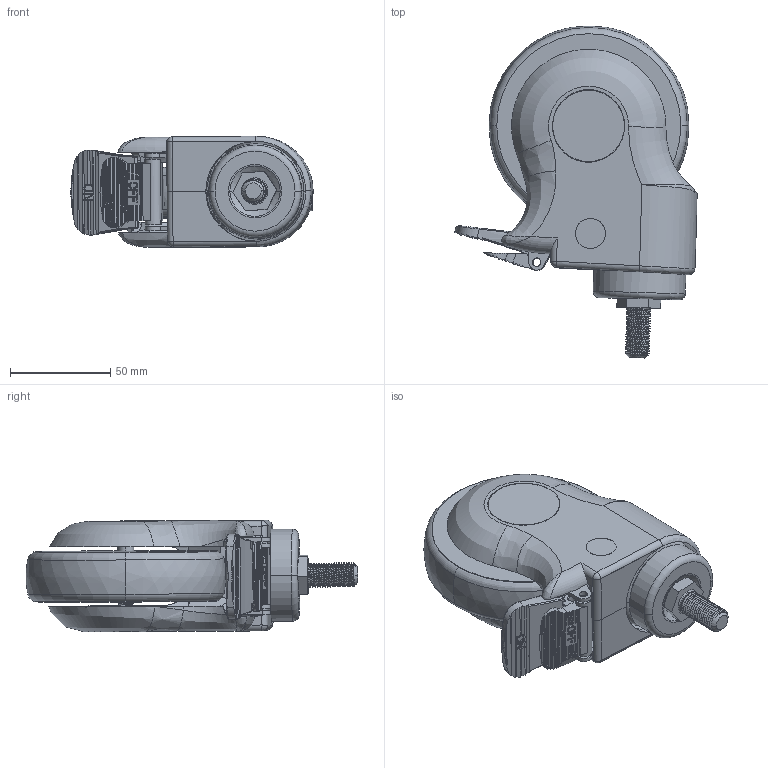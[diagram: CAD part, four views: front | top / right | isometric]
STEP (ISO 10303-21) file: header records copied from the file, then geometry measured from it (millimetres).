
FILE_DESCRIPTION((''),'2;1');
FILE_NAME('E3744-77_ASM_ASM','2022-09-12T',('lenovo'),(''),'PRO/ENGINEER BY PARAMETRIC TECHNOLOGY CORPORATION, 2010280','PRO/ENGINEER BY PARAMETRIC TECHNOLOGY CORPORATION, 2010280','');
FILE_SCHEMA(('CONFIG_CONTROL_DESIGN'));
Products named in the file (17): MSBR-64; MSBR-63; MSBR-62; MSBR-61; MSBR-60; MSBR-54; MSBR-53; MSBR-52; MSBR-51; MSBR-46; MSBR-45; MSBR-43; MSBR-42; MSBR-22; MSBR-1; ASM0001_ASM; E3744-77_ASM_ASM
Assembly tree (16 placements, depth 3):
  E3744-77_ASM_ASM
    ASM0001_ASM
      MSBR-64
      MSBR-63
      MSBR-62
      MSBR-61
      MSBR-60
      MSBR-54
      MSBR-53
      MSBR-52
      MSBR-51
      MSBR-46
      MSBR-45
      MSBR-43
      MSBR-42
      MSBR-22
      MSBR-1
Bounding box: 121.03 x 165.88 x 55.71 mm (x, y, z)
Volume: 288312.4 mm3; surface area: 114035.5 mm2
Topology: 15 solids, 15 shells, 929 faces, 2593 edges, 1720 vertices
Faces by surface type: plane 393, cylinder 331, bspline 96, cone 54, torus 50, sphere 5
Entity records: 50103 total; most frequent: CARTESIAN_POINT 26581, ORIENTED_EDGE 5176, DIRECTION 4456, EDGE_CURVE 2588, VERTEX_POINT 1720, AXIS2_PLACEMENT_3D 1621, VECTOR 1214, LINE 1214
